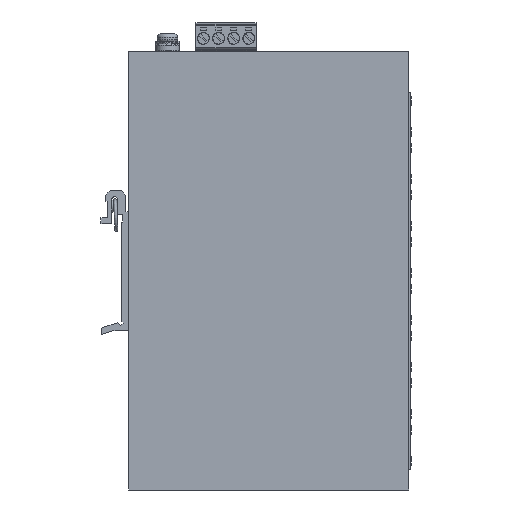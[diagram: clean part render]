
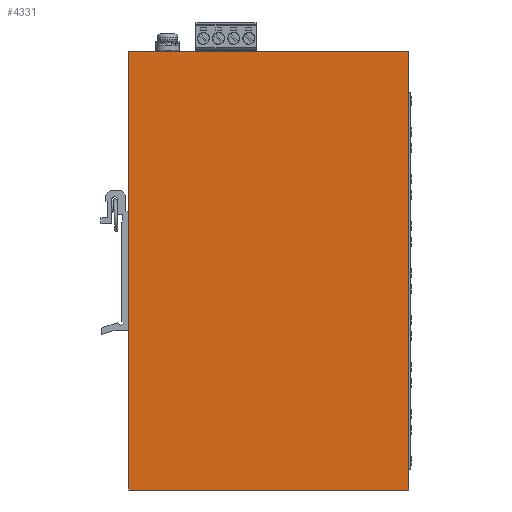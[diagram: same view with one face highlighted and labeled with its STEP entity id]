
A CAD part, left-side view. The second image highlights one B-rep face of the part: STEP entity #4331.
In plain terms, the highlighted planar face has unit normal (-1, 0, 0).
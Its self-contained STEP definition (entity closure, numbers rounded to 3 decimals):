
#719=CARTESIAN_POINT('',(0.,0.,147.));
#720=VERTEX_POINT('',#719);
#737=CARTESIAN_POINT('',(-0.,94.,147.));
#738=VERTEX_POINT('',#737);
#745=CARTESIAN_POINT('',(-0.,94.,147.));
#746=DIRECTION('',(0.,-1.,-0.));
#747=VECTOR('',#746,94.);
#748=LINE('',#745,#747);
#749=EDGE_CURVE('',#738,#720,#748,.T.);
#4157=CARTESIAN_POINT('',(0.,0.,0.));
#4158=VERTEX_POINT('',#4157);
#4159=CARTESIAN_POINT('',(0.,0.,0.));
#4160=DIRECTION('',(0.,0.,1.));
#4161=VECTOR('',#4160,147.);
#4162=LINE('',#4159,#4161);
#4163=EDGE_CURVE('',#4158,#720,#4162,.T.);
#4259=CARTESIAN_POINT('',(-0.,94.,0.));
#4260=VERTEX_POINT('',#4259);
#4267=CARTESIAN_POINT('',(-0.,94.,0.));
#4268=DIRECTION('',(0.,0.,1.));
#4269=VECTOR('',#4268,147.);
#4270=LINE('',#4267,#4269);
#4271=EDGE_CURVE('',#4260,#738,#4270,.T.);
#4307=CARTESIAN_POINT('',(-0.,94.,-0.));
#4308=DIRECTION('',(0.,-1.,-0.));
#4309=VECTOR('',#4308,94.);
#4310=LINE('',#4307,#4309);
#4311=EDGE_CURVE('',#4260,#4158,#4310,.T.);
#4320=CARTESIAN_POINT('',(-0.,94.002,0.));
#4321=DIRECTION('',(1.,0.,-0.));
#4322=DIRECTION('',(0.,-1.,-0.));
#4323=AXIS2_PLACEMENT_3D('',#4320,#4321,#4322);
#4324=PLANE('',#4323);
#4325=ORIENTED_EDGE('',*,*,#4271,.F.);
#4326=ORIENTED_EDGE('',*,*,#4311,.T.);
#4327=ORIENTED_EDGE('',*,*,#4163,.T.);
#4328=ORIENTED_EDGE('',*,*,#749,.F.);
#4329=EDGE_LOOP('',(#4325,#4326,#4327,#4328));
#4330=FACE_BOUND('',#4329,.T.);
#4331=ADVANCED_FACE('',(#4330),#4324,.F.);
